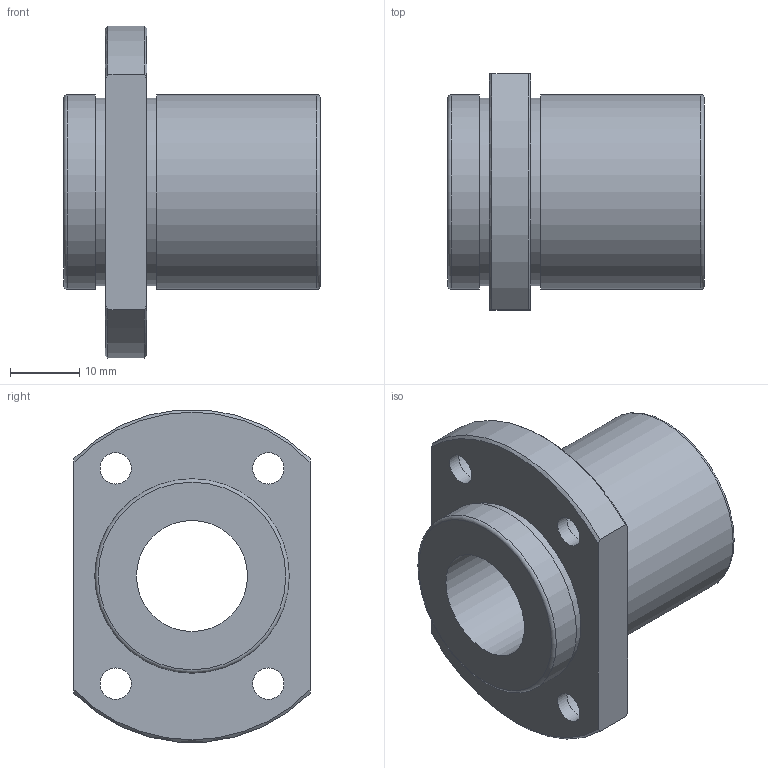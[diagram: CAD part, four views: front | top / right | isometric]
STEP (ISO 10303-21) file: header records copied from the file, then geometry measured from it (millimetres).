
FILE_DESCRIPTION(('STEP AP203'),'1');
FILE_NAME('//192.168.1.1/share/s-4 技術開発/s-4-4_CAD/s-4-4-3_見直し済み/002 修正済み/NFIO-V(済)/NFIO-V_TOP/NFIO-16VUU.step','2022-03-08T01:21:05',(' '),(' '),'Spatial InterOp 3D',' ',' ');
FILE_SCHEMA(('CONFIG_CONTROL_DESIGN'));
Length unit declared in the file: millimetre
Products named in the file (1): 1
Bounding box: 37 x 34 x 47.82 mm (x, y, z)
Volume: 19557.9 mm3; surface area: 8466.5 mm2
Topology: 1 solids, 1 shells, 33 faces, 67 edges, 44 vertices
Faces by surface type: cylinder 15, plane 12, cone 4, torus 2
Full cylindrical faces by diameter (mm): 4.5 x4, 7.5 x4, 16 x1, 27 x2, 28 x2
Entity records: 878 total; most frequent: CARTESIAN_POINT 154, DIRECTION 148, ORIENTED_EDGE 104, AXIS2_PLACEMENT_3D 70, EDGE_LOOP 66, EDGE_CURVE 52, FACE_OUTER_BOUND 48, VERTEX_POINT 44
